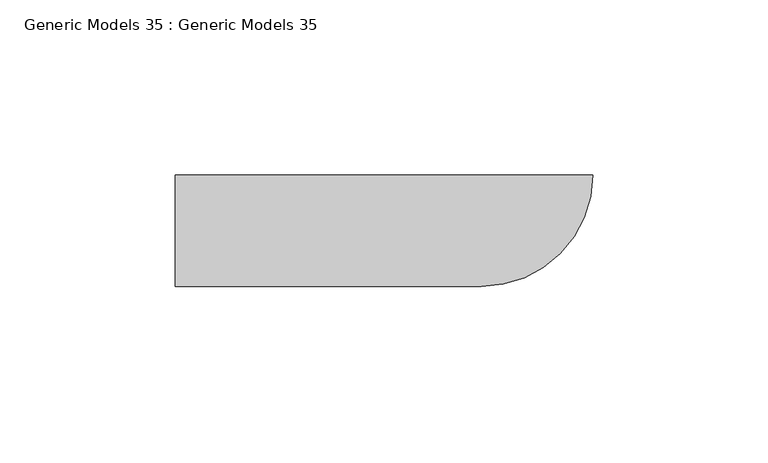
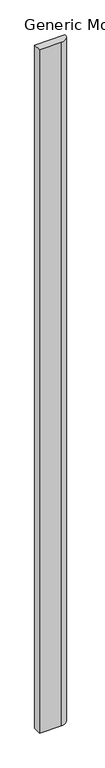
"""IFC4 building model written with IfcOpenShell, lengths in millimetres: proxy geometry, Generic Models 35 : Generic Models 35."""

from ifc_helpers import new_model, si_unit, point, frame_2d, origin, origin_with_axes, place, context, project, spatial, polyline, circle_curve, trimmed, segment, composite_curve, outline, extrude, source, transform, mapped, element, save


def generic_models_35_generic_models_35_965fc304(model_context):
    return source(origin(), model_context, "Body", "SweptSolid", [
        extrude(outline(composite_curve([segment(polyline([(92660.1656839, 14538.0667687), (92572.6656839, 14538.0667687), (92572.6656839, 14569.8865738), (92691.985489, 14569.8865738)]), True, "CONTINUOUS"), segment(trimmed(circle_curve(frame_2d((92660.1656839, 14569.8865738)), 31.8198052), [point((92691.985489, 14569.8865738))], [point((92660.1656839, 14538.0667687))], False, "CARTESIAN"), True, "CONTINUOUS")], self_intersect=False)), origin_with_axes(), (0.0, 0.0, 1.0), 2827.5479286),
    ])


if __name__ == "__main__":
    model = new_model("IFC4")
    model_context = context("Model", 3, world=origin())
    ifc_project = project(units=[si_unit("LENGTHUNIT", "METRE", prefix="MILLI")], contexts=[model_context])
    site = spatial("IfcSite", under=ifc_project)
    building = spatial("IfcBuilding", under=site)
    placement = place(None, origin())
    generic_models_35_generic_models_35_shape = generic_models_35_generic_models_35_965fc304(model_context)
    element("IfcBuildingElementProxy", 1, Name="Generic Models 35 : Generic Models 35", ObjectType="Generic Models 35 : Generic Models 35", at=placement, inside=building, context=model_context, shape_type="MappedRepresentation", body=[
        mapped(generic_models_35_generic_models_35_shape, transform((0.0, 0.0, 0.0), x_axis=(1.0, 0.0, 0.0), y_axis=(0.0, 1.0, 0.0), z_axis=(0.0, 0.0, 1.0))),
    ])
    save(model, "model.ifc")
